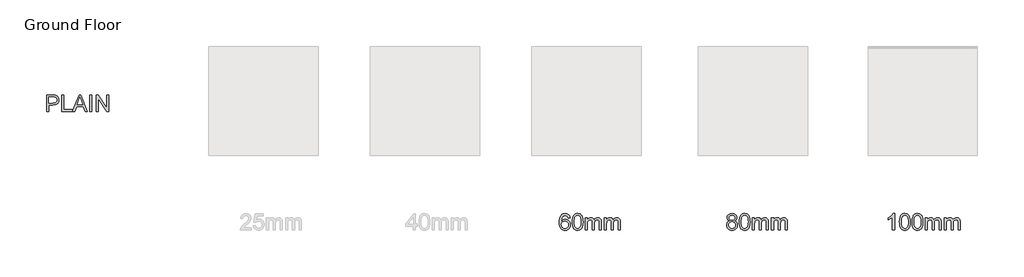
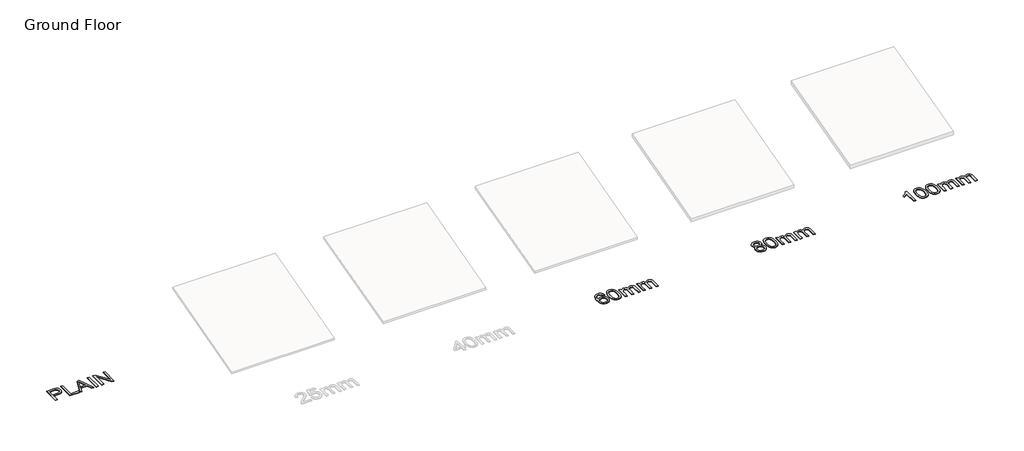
# One storey, part 2 of 2: 4 proxies.
"""IFC4 building model written with IfcOpenShell, lengths in millimetres."""

import ifcopenshell
import ifcopenshell.guid

model = None  # the IFC model being written
_history = None  # IfcOwnerHistory: only IFC2X3 demands one
_inside = {}  # id of a spatial element -> (the spatial element, [elements in it])
_under = {}  # id of a project, library or spatial element -> (it, [spatial elements below it])
_declared = {}  # id of a project -> (the project, [libraries it declares])
_typed = {}  # id of a type object -> (the type object, [elements of that type])
_made_of = {}  # id of a material, layer set ... -> (it, [elements and type objects made of it])


def new_model(schema):
    """Start an empty IFC model of exactly this schema.

    Asked for "IFC4X3", IfcOpenShell would pick the latest addendum, in which some entities
    have other attributes; the version numbers below select the first issue.
    IFC2X3 requires an IfcOwnerHistory on every rooted entity: one is made here for all.
    """
    global model, _history
    if schema == "IFC4X3":
        model = ifcopenshell.file(schema_version=(4, 3, 0, 0))
    else:
        model = ifcopenshell.file(schema=schema)
    _inside.clear()
    _under.clear()
    _declared.clear()
    _typed.clear()
    _made_of.clear()
    _history = None
    if model.schema == "IFC2X3":
        org = make("IfcOrganization", Name="unknown")
        user = make(
            "IfcPersonAndOrganization",
            ThePerson=make("IfcPerson", FamilyName="unknown"),
            TheOrganization=org,
        )
        app = make(
            "IfcApplication",
            ApplicationDeveloper=org,
            Version="unknown",
            ApplicationFullName="unknown",
            ApplicationIdentifier="unknown",
        )
        _history = make(
            "IfcOwnerHistory",
            OwningUser=user,
            OwningApplication=app,
            ChangeAction="ADDED",
            CreationDate=0,
        )
    return model


def make(cls, **values):
    """One entity of the class cls with the attributes given. An attribute that is None is left unset."""
    return model.create_entity(
        cls, **{name: value for name, value in values.items() if value is not None}
    )


def rooted(cls, **values):
    """An entity with a GlobalId (a new one), such as an element, a storey or a relation."""
    return make(cls, GlobalId=ifcopenshell.guid.new(), OwnerHistory=_history, **values)


def si_unit(unit_type, name, prefix=None):
    """IfcSIUnit, for example si_unit("LENGTHUNIT", "METRE", prefix="MILLI")."""
    return make("IfcSIUnit", UnitType=unit_type, Prefix=prefix, Name=name)


def assignment(units):
    """IfcUnitAssignment: the units of a project."""
    return None if units is None else make("IfcUnitAssignment", Units=units)


def point(xyz):
    """IfcCartesianPoint."""
    return None if xyz is None else make("IfcCartesianPoint", Coordinates=xyz)


def direction(xyz):
    """IfcDirection."""
    return None if xyz is None else make("IfcDirection", DirectionRatios=xyz)


def frame(location, z_axis=None, x_axis=None):
    """IfcAxis2Placement3D, a coordinate frame: its origin and axes. An axis left out is left unset."""
    return make(
        "IfcAxis2Placement3D",
        Location=point(location),
        Axis=direction(z_axis),
        RefDirection=direction(x_axis),
    )


def origin():
    """The frame at (0, 0, 0) with its axes left unset."""
    return frame((0.0, 0.0, 0.0))


def origin_with_axes():
    """The frame at (0, 0, 0) with the z axis (0, 0, 1) and the x axis (1, 0, 0) written out."""
    return frame((0.0, 0.0, 0.0), z_axis=(0.0, 0.0, 1.0), x_axis=(1.0, 0.0, 0.0))


def place(relative_to, where):
    """IfcLocalPlacement: puts the frame where relative to a parent placement (None: the world)."""
    return make(
        "IfcLocalPlacement", PlacementRelTo=relative_to, RelativePlacement=where
    )


def context(
    kind, dimensions, precision=None, world=None, true_north=None, identifier=None
):
    """IfcGeometricRepresentationContext, for example the 3D "Model" context."""
    return make(
        "IfcGeometricRepresentationContext",
        ContextIdentifier=identifier,
        ContextType=kind,
        CoordinateSpaceDimension=dimensions,
        Precision=precision,
        WorldCoordinateSystem=world,
        TrueNorth=true_north,
    )


def project(units=None, contexts=None):
    """IfcProject with its units and contexts."""
    return rooted(
        "IfcProject",
        Name="project",
        RepresentationContexts=contexts,
        UnitsInContext=assignment(units),
    )


def spatial(cls, under=None, at=None, **own):
    """A site, building, storey or space (cls), placed at a placement, below another one or the project."""
    s = rooted(cls, ObjectPlacement=at, **own)
    if under is not None:
        _under.setdefault(under.id(), (under, []))[1].append(s)
    return s


def polyline(points):
    """IfcPolyline through the points."""
    return make("IfcPolyline", Points=[point(p) for p in points])


def outline(outer, holes=None, kind="AREA"):
    """IfcArbitraryClosedProfileDef: a profile drawn as a closed curve; with holes, ...WithVoids."""
    if holes is None:
        return make("IfcArbitraryClosedProfileDef", ProfileType=kind, OuterCurve=outer)
    return make(
        "IfcArbitraryProfileDefWithVoids",
        ProfileType=kind,
        OuterCurve=outer,
        InnerCurves=holes,
    )


def extrude(swept, where, along, depth):
    """IfcExtrudedAreaSolid: the profile swept, set in the frame where, extruded along a direction by depth."""
    return make(
        "IfcExtrudedAreaSolid",
        SweptArea=swept,
        Position=where,
        ExtrudedDirection=direction(along),
        Depth=depth,
    )


def shape(context_of_items, identifier, shape_type, items):
    """IfcShapeRepresentation: the items that make up one representation, for example the "Body"."""
    return make(
        "IfcShapeRepresentation",
        ContextOfItems=context_of_items,
        RepresentationIdentifier=identifier,
        RepresentationType=shape_type,
        Items=items,
    )


def made_of(thing, what):
    """Note that an element or type object is made of a material, layer set ...; save() writes the relation."""
    if what is not None:
        _made_of.setdefault(what.id(), (what, []))[1].append(thing)
    return thing


def element(
    cls,
    number,
    at=None,
    inside=None,
    cuts=None,
    type_object=None,
    material=None,
    context=None,
    identifier="Body",
    shape_type=None,
    held_by="IfcProductDefinitionShape",
    body=None,
    shapes=None,
    **own,
):
    """One element of the class cls, such as IfcWall. Its Tag is "e" and its number.

    at: its placement. inside: the storey or other place that contains it. cuts: it is an
    opening in that element (IfcRelVoidsElement). A single representation is given by context,
    identifier, shape_type and body (its items); several are given by shapes. held_by: the class
    of the entity that holds the representations. save() writes the other relations.
    """
    e = rooted(cls, Tag="e%d" % number, ObjectPlacement=at, **own)
    if body is not None:
        shapes = [shape(context, identifier, shape_type, body)]
    if shapes is not None:
        e.Representation = make(held_by, Representations=shapes)
    if inside is not None:
        _inside.setdefault(inside.id(), (inside, []))[1].append(e)
    if cuts is not None:
        rooted(
            "IfcRelVoidsElement", RelatingBuildingElement=cuts, RelatedOpeningElement=e
        )
    if type_object is not None:
        _typed.setdefault(type_object.id(), (type_object, []))[1].append(e)
    return made_of(e, material)


def aggregate(whole, parts):
    """IfcRelAggregates: a whole, such as a stair, and the parts it consists of."""
    return rooted("IfcRelAggregates", RelatingObject=whole, RelatedObjects=parts)


def save(model, path):
    """Write the relations noted so far, then the file.

    IfcRelAggregates (storeys below a building ...), IfcRelContainedInSpatialStructure (elements
    in a storey), IfcRelDefinesByType, IfcRelAssociatesMaterial and IfcRelDeclares: one each for
    every whole, place, type object, material and project.
    """
    for whole, parts in _under.values():
        aggregate(whole, parts)
    for where, things in _inside.values():
        rooted(
            "IfcRelContainedInSpatialStructure",
            RelatedElements=things,
            RelatingStructure=where,
        )
    for kind, things in _typed.values():
        rooted("IfcRelDefinesByType", RelatedObjects=things, RelatingType=kind)
    for what, things in _made_of.values():
        rooted("IfcRelAssociatesMaterial", RelatedObjects=things, RelatingMaterial=what)
    for by, libraries in _declared.values():
        rooted("IfcRelDeclares", RelatingContext=by, RelatedDefinitions=libraries)
    model.write(path)


model = new_model("IFC4")

# Units and contexts
model_context = context("Model", 3, world=origin())
ifc_project = project(units=[si_unit("LENGTHUNIT", "METRE", prefix="MILLI")], contexts=[model_context])

# Site, building, storey
site = spatial("IfcSite", under=ifc_project)
building = spatial("IfcBuilding", under=site)
storey = spatial("IfcBuildingStorey", under=building, Name="Ground Floor", Elevation=0.0)

# Proxies
placement = place(None, origin())
element("IfcBuildingElementProxy", 1, Name="600mm Arial", ObjectType="600mm Arial", at=placement, inside=storey, context=model_context, shape_type="SweptSolid", body=[
    extrude(outline(polyline([(9572.4270523, -2153.6106576), (9532.0887915, -2133.7450298), (9516.4308141, -2121.1634656), (9503.780272, -2106.8160678), (9487.0600353, -2073.3755944), (9481.4866231, -2033.9754327), (9484.5216495, -2003.2480891), (9493.6267289, -1975.0775253), (9508.8018612, -1949.4637414), (9530.0470464, -1926.4067373), (9556.341412, -1907.35045), (9586.6640855, -1893.7388162), (9621.0150668, -1885.5718359), (9659.3943559, -1882.8495091), (9697.9575861, -1885.6362152), (9732.5660848, -1893.9963336), (9763.219852, -1907.9298641), (9789.9188878, -1927.4368069), (9811.5503491, -1950.9444664), (9827.0013929, -1976.8801471), (9836.2720192, -2005.2438489), (9839.362228, -2036.0355719), (9833.8623921, -2074.1665407), (9817.3628846, -2107.036797), (9804.9422688, -2121.2876258), (9789.6797645, -2133.8002121), (9750.6290907, -2153.6106576), (9775.3921475, -2164.1458782), (9797.0006162, -2177.5045931), (9815.4544968, -2193.6868024), (9830.7537893, -2212.692506), (9842.7605379, -2234.0986396), (9851.3367869, -2257.4821389), (9856.4825363, -2282.8430039), (9858.1977861, -2310.1812347), (9854.7948777, -2347.7603805), (9844.5861523, -2382.2125294), (9827.57161, -2413.5376813), (9803.7512508, -2441.7358362), (9774.3758735, -2465.0411606), (9740.6962769, -2481.6878209), (9702.7124609, -2491.675817), (9660.4244255, -2495.0051491), (9618.1363902, -2491.6620215), (9580.1525742, -2481.6326386), (9546.4729775, -2464.9170004), (9517.0976002, -2441.515107), (9493.277241, -2413.1192155), (9476.2626987, -2381.4215831), (9466.0539734, -2346.4222098), (9462.6510649, -2308.1210955), (9464.4352926, -2279.5366645), (9469.7879756, -2253.3802547), (9478.709114, -2229.651866), (9491.1987077, -2208.3514984), (9506.9808453, -2189.8654282), (9525.7796153, -2174.5799313), (9547.5950176, -2162.4950077), (9572.4270523, -2153.6106576)]), holes=[polyline([(9537.9932975, -2305.4723452), (9541.1386886, -2334.2958995), (9550.5748617, -2362.1997488), (9567.9940742, -2386.5351428), (9595.0885832, -2404.6533311), (9627.5357751, -2415.9105201), (9661.0130367, -2419.6629165), (9688.2546984, -2417.6901493), (9712.2957868, -2411.7718477), (9733.1363019, -2401.9080117), (9750.7762435, -2388.0986413), (9764.8109416, -2371.2450474), (9774.835726, -2352.2485409), (9780.8505966, -2331.1091217), (9782.8555535, -2307.8267899), (9780.7862173, -2284.1719777), (9774.5782086, -2262.6508809), (9764.2315275, -2243.2634998), (9749.7461739, -2226.0098342), (9731.6279857, -2211.8463774), (9710.3828005, -2201.7296225), (9686.0106183, -2195.6595696), (9658.5114391, -2193.6362186), (9631.6698491, -2195.6319785), (9607.9460589, -2201.6192579), (9587.3400686, -2211.5980571), (9569.8518783, -2225.5683758), (9555.9137492, -2242.5369328), (9545.9579427, -2261.5104467), (9539.9844588, -2282.4889175), (9537.9932975, -2305.4723452)]), polyline([(9556.8288557, -2036.1827247), (9558.4981202, -2053.4547844), (9563.5059139, -2069.0713751), (9571.8522366, -2083.0324968), (9583.5370885, -2095.3381495), (9598.4133167, -2105.381328), (9616.3337684, -2112.5550269), (9637.2984436, -2116.8592462), (9661.3073423, -2118.293986), (9684.7230313, -2116.8684433), (9705.2324525, -2112.5918151), (9722.835606, -2105.4641014), (9737.5324917, -2095.4853023), (9749.1207745, -2083.437167), (9757.3981194, -2070.1014447), (9762.3645264, -2055.4781353), (9764.0199953, -2039.5672391), (9762.3093441, -2023.0355419), (9757.1773902, -2007.8742052), (9748.6241339, -1994.0832289), (9736.6495749, -1981.662613), (9721.6215954, -1971.3941068), (9703.9080773, -1964.0594595), (9683.5090207, -1959.6586712), (9660.4244255, -1958.1917417), (9637.1604878, -1959.6264815), (9616.6648622, -1963.9307008), (9598.9375485, -1971.1043998), (9583.9785469, -1981.1475782), (9572.100557, -1993.1957136), (9563.6162785, -2006.3842831), (9558.5257114, -2020.7132868), (9556.8288557, -2036.1827247)])]), origin_with_axes(), (0.0, 0.0, 1.0), 20.0),
    extrude(outline(polyline([(9924.1222397, -2189.0744819), (9929.6588637, -2092.5974287), (9936.5796437, -2051.6843523), (9946.2687358, -2015.6549094), (9958.6847531, -1984.2147944), (9973.786309, -1957.0697016), (9991.5734035, -1934.2196312), (10012.0460365, -1915.6645831), (10035.273186, -1901.3079882), (10061.3238298, -1891.0532776), (10090.1979678, -1884.9004512), (10121.8956003, -1882.8495091), (10168.322308, -1887.7055514), (10209.8929735, -1902.2736785), (10244.657822, -1925.983673), (10270.6670791, -1958.2653181), (10290.3119776, -1998.8427022), (10305.9837506, -2047.4399138), (10316.2476583, -2109.1521184), (10319.6689609, -2189.0744819), (10314.1875191, -2284.9997121), (10307.335717, -2325.7748328), (10297.743194, -2361.7582904), (10285.4237456, -2393.212201), (10270.3911676, -2420.3986805), (10252.6454599, -2443.3177288), (10232.1866224, -2461.9693459), (10208.9318818, -2476.4225098), (10182.7984646, -2486.7461983), (10153.7863707, -2492.9404114), (10121.8956003, -2495.0051491), (10080.3985112, -2491.4182996), (10043.6103117, -2480.6577513), (10011.5310017, -2462.723504), (9984.1605813, -2437.6155578), (9957.8938068, -2392.2281167), (9939.1318251, -2335.675457), (9927.874636, -2267.9575787), (9924.1222397, -2189.0744819)]), holes=[polyline([(9999.4644723, -2188.9273291), (10001.6717642, -2254.4241198), (10008.2936401, -2307.4405138), (10019.3301, -2347.9765112), (10034.7811438, -2376.0321118), (10053.4695492, -2395.1205889), (10074.2180937, -2408.7552153), (10097.0267774, -2416.9359912), (10121.8956003, -2419.6629165), (10146.7644231, -2416.9267941), (10169.5731068, -2408.7184271), (10190.3216514, -2395.0378154), (10209.0100567, -2375.884959), (10224.4611005, -2347.7833731), (10235.4975604, -2307.2565728), (10242.1194363, -2254.3045582), (10244.3267283, -2188.9273291), (10242.1930127, -2125.1641823), (10235.791866, -2073.0812888), (10225.1232881, -2032.6786487), (10210.1872791, -2003.9562619), (10191.8115734, -1983.9342843), (10170.8239056, -1969.6328718), (10147.2242756, -1961.0520242), (10121.0126835, -1958.1917417), (10096.2726193, -1960.7117334), (10073.8502117, -1968.2717084), (10053.7454607, -1980.8716667), (10035.9583662, -1998.5116084), (10019.9922876, -2029.781578), (10008.5879457, -2071.9408546), (10001.7453406, -2124.9894383), (9999.4644723, -2188.9273291)])]), origin_with_axes(), (0.0, 0.0, 1.0), 20.0),
    extrude(outline(polyline([(10404.4289726, -2485.58737), (10404.4289726, -2042.9517534), (10479.7712052, -2042.9517534), (10479.7712052, -2115.7923885), (10502.4327361, -2082.333521), (10531.5689901, -2056.1219288), (10566.1866858, -2039.180963), (10605.2925419, -2033.5339743), (10647.1943012, -2039.2913276), (10665.0273809, -2046.4880191), (10680.7819273, -2056.5633872), (10705.8714794, -2084.2097192), (10722.2790164, -2121.0898892), (10749.7414073, -2082.7841764), (10781.0665592, -2055.422953), (10816.2544721, -2039.006219), (10855.3051458, -2033.5339743), (10885.4668709, -2035.8102442), (10911.940579, -2042.6390537), (10934.7262701, -2054.0204029), (10953.8239442, -2069.9542919), (10968.9209015, -2090.6246615), (10979.7044425, -2116.2154528), (10986.1745671, -2146.7266657), (10988.3312753, -2182.1583004), (10988.3312753, -2485.58737), (10912.9890427, -2485.58737), (10912.9890427, -2214.531916), (10911.2416032, -2176.9527702), (10905.9992848, -2151.6240948), (10896.1768355, -2134.2784587), (10880.6890035, -2120.6484308), (10860.7681935, -2111.8192629), (10837.6468101, -2108.8762069), (10816.2958588, -2110.7616022), (10796.8303027, -2116.4177879), (10779.2501419, -2125.844764), (10763.5553762, -2139.0425306), (10750.6473167, -2156.3973637), (10741.4272742, -2178.2955394), (10735.8952487, -2204.7370578), (10734.0512402, -2235.7219189), (10734.0512402, -2485.58737), (10658.7090076, -2485.58737), (10658.7090076, -2206.1442065), (10654.349606, -2163.5434714), (10648.9003539, -2146.8232348), (10641.271401, -2133.1564186), (10631.1592447, -2122.533826), (10618.2603822, -2114.9462599), (10602.5748137, -2110.3937202), (10584.102539, -2108.8762069), (10555.0766496, -2112.9229089), (10528.3316285, -2125.0630147), (10506.2587088, -2145.0022189), (10491.2491234, -2172.4462157), (10482.6406847, -2210.5220022), (10479.7712052, -2262.3565753), (10479.7712052, -2485.58737), (10404.4289726, -2485.58737)])), origin_with_axes(), (0.0, 0.0, 1.0), 20.0),
    extrude(outline(polyline([(11101.3446242, -2485.58737), (11101.3446242, -2042.9517534), (11176.6868568, -2042.9517534), (11176.6868568, -2115.7923885), (11199.3483877, -2082.333521), (11228.4846417, -2056.1219288), (11263.1023375, -2039.180963), (11302.2081936, -2033.5339743), (11344.1099528, -2039.2913276), (11361.9430325, -2046.4880191), (11377.697579, -2056.5633872), (11402.7871311, -2084.2097192), (11419.194668, -2121.0898892), (11446.657059, -2082.7841764), (11477.9822109, -2055.422953), (11513.1701237, -2039.006219), (11552.2207975, -2033.5339743), (11582.3825226, -2035.8102442), (11608.8562307, -2042.6390537), (11631.6419217, -2054.0204029), (11650.7395958, -2069.9542919), (11665.8365532, -2090.6246615), (11676.6200942, -2116.2154528), (11683.0902188, -2146.7266657), (11685.246927, -2182.1583004), (11685.246927, -2485.58737), (11609.9046943, -2485.58737), (11609.9046943, -2214.531916), (11608.1572549, -2176.9527702), (11602.9149364, -2151.6240948), (11593.0924872, -2134.2784587), (11577.6046552, -2120.6484308), (11557.6838451, -2111.8192629), (11534.5624617, -2108.8762069), (11513.2115104, -2110.7616022), (11493.7459544, -2116.4177879), (11476.1657935, -2125.844764), (11460.4710279, -2139.0425306), (11447.5629684, -2156.3973637), (11438.3429259, -2178.2955394), (11432.8109004, -2204.7370578), (11430.9668919, -2235.7219189), (11430.9668919, -2485.58737), (11355.6246593, -2485.58737), (11355.6246593, -2206.1442065), (11351.2652576, -2163.5434714), (11345.8160056, -2146.8232348), (11338.1870527, -2133.1564186), (11328.0748964, -2122.533826), (11315.1760339, -2114.9462599), (11299.4904653, -2110.3937202), (11281.0181907, -2108.8762069), (11251.9923012, -2112.9229089), (11225.2472802, -2125.0630147), (11203.1743605, -2145.0022189), (11188.1647751, -2172.4462157), (11179.5563364, -2210.5220022), (11176.6868568, -2262.3565753), (11176.6868568, -2485.58737), (11101.3446242, -2485.58737)])), origin_with_axes(), (0.0, 0.0, 1.0), 20.0),
])
element("IfcBuildingElementProxy", 2, Name="600mm Arial", ObjectType="600mm Arial", at=placement, inside=storey, context=model_context, shape_type="SweptSolid", body=[
    extrude(outline(polyline([(15601.7887855, -2485.58737), (15526.4465529, -2485.58737), (15526.4465529, -2015.8756386), (15494.9926423, -2041.3146785), (15455.0774458, -2066.7169303), (15413.1756866, -2088.9186087), (15375.7620877, -2104.7559286), (15375.7620877, -2033.5339743), (15434.9359066, -2001.3442998), (15486.2002626, -1963.0477841), (15526.6120998, -1922.3232472), (15553.2283621, -1882.8495091), (15601.7887855, -1882.8495091), (15601.7887855, -2485.58737)])), origin_with_axes(), (0.0, 0.0, 1.0), 20.0),
    extrude(outline(polyline([(15780.726588, -2189.0744819), (15786.263212, -2092.5974287), (15793.183992, -2051.6843523), (15802.8730841, -2015.6549094), (15815.2891014, -1984.2147944), (15830.3906573, -1957.0697016), (15848.1777518, -1934.2196312), (15868.6503848, -1915.6645831), (15891.8775343, -1901.3079882), (15917.9281781, -1891.0532776), (15946.8023162, -1884.9004512), (15978.4999486, -1882.8495091), (16024.9266564, -1887.7055514), (16066.4973218, -1902.2736785), (16101.2621704, -1925.983673), (16127.2714274, -1958.2653181), (16146.916326, -1998.8427022), (16162.588099, -2047.4399138), (16172.8520066, -2109.1521184), (16176.2733092, -2189.0744819), (16170.7918674, -2284.9997121), (16163.9400653, -2325.7748328), (16154.3475423, -2361.7582904), (16142.0280939, -2393.212201), (16126.9955159, -2420.3986805), (16109.2498082, -2443.3177288), (16088.7909707, -2461.9693459), (16065.5362301, -2476.4225098), (16039.4028129, -2486.7461983), (16010.390719, -2492.9404114), (15978.4999486, -2495.0051491), (15937.0028595, -2491.4182996), (15900.21466, -2480.6577513), (15868.13535, -2462.723504), (15840.7649296, -2437.6155578), (15814.4981551, -2392.2281167), (15795.7361734, -2335.675457), (15784.4789843, -2267.9575787), (15780.726588, -2189.0744819)]), holes=[polyline([(15856.0688206, -2188.9273291), (15858.2761125, -2254.4241198), (15864.8979885, -2307.4405138), (15875.9344483, -2347.9765112), (15891.3854921, -2376.0321118), (15910.0738975, -2395.1205889), (15930.822442, -2408.7552153), (15953.6311257, -2416.9359912), (15978.4999486, -2419.6629165), (16003.3687714, -2416.9267941), (16026.1774551, -2408.7184271), (16046.9259997, -2395.0378154), (16065.614405, -2375.884959), (16081.0654488, -2347.7833731), (16092.1019087, -2307.2565728), (16098.7237846, -2254.3045582), (16100.9310766, -2188.9273291), (16098.797361, -2125.1641823), (16092.3962143, -2073.0812888), (16081.7276364, -2032.6786487), (16066.7916274, -2003.9562619), (16048.4159217, -1983.9342843), (16027.4282539, -1969.6328718), (16003.8286239, -1961.0520242), (15977.6170318, -1958.1917417), (15952.8769676, -1960.7117334), (15930.45456, -1968.2717084), (15910.349809, -1980.8716667), (15892.5627145, -1998.5116084), (15876.5966359, -2029.781578), (15865.1922941, -2071.9408546), (15858.3496889, -2124.9894383), (15856.0688206, -2188.9273291)])]), origin_with_axes(), (0.0, 0.0, 1.0), 20.0),
    extrude(outline(polyline([(16242.1977627, -2189.0744819), (16247.7343867, -2092.5974287), (16254.6551668, -2051.6843523), (16264.3442588, -2015.6549094), (16276.7602762, -1984.2147944), (16291.8618321, -1957.0697016), (16309.6489265, -1934.2196312), (16330.1215596, -1915.6645831), (16353.348709, -1901.3079882), (16379.3993528, -1891.0532776), (16408.2734909, -1884.9004512), (16439.9711233, -1882.8495091), (16486.3978311, -1887.7055514), (16527.9684966, -1902.2736785), (16562.7333451, -1925.983673), (16588.7426022, -1958.2653181), (16608.3875007, -1998.8427022), (16624.0592737, -2047.4399138), (16634.3231814, -2109.1521184), (16637.7444839, -2189.0744819), (16632.2630422, -2284.9997121), (16625.41124, -2325.7748328), (16615.818717, -2361.7582904), (16603.4992687, -2393.212201), (16588.4666907, -2420.3986805), (16570.7209829, -2443.3177288), (16550.2621455, -2461.9693459), (16527.0074049, -2476.4225098), (16500.8739876, -2486.7461983), (16471.8618938, -2492.9404114), (16439.9711233, -2495.0051491), (16398.4740343, -2491.4182996), (16361.6858347, -2480.6577513), (16329.6065248, -2462.723504), (16302.2361043, -2437.6155578), (16275.9693299, -2392.2281167), (16257.2073481, -2335.675457), (16245.9501591, -2267.9575787), (16242.1977627, -2189.0744819)]), holes=[polyline([(16317.5399953, -2188.9273291), (16319.7472873, -2254.4241198), (16326.3691632, -2307.4405138), (16337.4056231, -2347.9765112), (16352.8566669, -2376.0321118), (16371.5450722, -2395.1205889), (16392.2936167, -2408.7552153), (16415.1023004, -2416.9359912), (16439.9711233, -2419.6629165), (16464.8399462, -2416.9267941), (16487.6486299, -2408.7184271), (16508.3971744, -2395.0378154), (16527.0855798, -2375.884959), (16542.5366236, -2347.7833731), (16553.5730834, -2307.2565728), (16560.1949593, -2254.3045582), (16562.4022513, -2188.9273291), (16560.2685357, -2125.1641823), (16553.867389, -2073.0812888), (16543.1988112, -2032.6786487), (16528.2628022, -2003.9562619), (16509.8870965, -1983.9342843), (16488.8994287, -1969.6328718), (16465.2997987, -1961.0520242), (16439.0882065, -1958.1917417), (16414.3481424, -1960.7117334), (16391.9257347, -1968.2717084), (16371.8209837, -1980.8716667), (16354.0338892, -1998.5116084), (16338.0678107, -2029.781578), (16326.6634688, -2071.9408546), (16319.8208637, -2124.9894383), (16317.5399953, -2188.9273291)])]), origin_with_axes(), (0.0, 0.0, 1.0), 20.0),
    extrude(outline(polyline([(16722.5044956, -2485.58737), (16722.5044956, -2042.9517534), (16797.8467282, -2042.9517534), (16797.8467282, -2115.7923885), (16820.5082591, -2082.333521), (16849.6445131, -2056.1219288), (16884.2622089, -2039.180963), (16923.368065, -2033.5339743), (16965.2698242, -2039.2913276), (16983.1029039, -2046.4880191), (16998.8574504, -2056.5633872), (17023.9470025, -2084.2097192), (17040.3545394, -2121.0898892), (17067.8169304, -2082.7841764), (17099.1420823, -2055.422953), (17134.3299951, -2039.006219), (17173.3806689, -2033.5339743), (17203.542394, -2035.8102442), (17230.0161021, -2042.6390537), (17252.8017931, -2054.0204029), (17271.8994672, -2069.9542919), (17286.9964246, -2090.6246615), (17297.7799656, -2116.2154528), (17304.2500902, -2146.7266657), (17306.4067984, -2182.1583004), (17306.4067984, -2485.58737), (17231.0645657, -2485.58737), (17231.0645657, -2214.531916), (17229.3171263, -2176.9527702), (17224.0748078, -2151.6240948), (17214.2523586, -2134.2784587), (17198.7645266, -2120.6484308), (17178.8437165, -2111.8192629), (17155.7223331, -2108.8762069), (17134.3713818, -2110.7616022), (17114.9058258, -2116.4177879), (17097.3256649, -2125.844764), (17081.6308993, -2139.0425306), (17068.7228398, -2156.3973637), (17059.5027973, -2178.2955394), (17053.9707718, -2204.7370578), (17052.1267633, -2235.7219189), (17052.1267633, -2485.58737), (16976.7845307, -2485.58737), (16976.7845307, -2206.1442065), (16972.425129, -2163.5434714), (16966.975877, -2146.8232348), (16959.3469241, -2133.1564186), (16949.2347678, -2122.533826), (16936.3359053, -2114.9462599), (16920.6503367, -2110.3937202), (16902.1780621, -2108.8762069), (16873.1521726, -2112.9229089), (16846.4071516, -2125.0630147), (16824.3342319, -2145.0022189), (16809.3246465, -2172.4462157), (16800.7162078, -2210.5220022), (16797.8467282, -2262.3565753), (16797.8467282, -2485.58737), (16722.5044956, -2485.58737)])), origin_with_axes(), (0.0, 0.0, 1.0), 20.0),
    extrude(outline(polyline([(17419.4201473, -2485.58737), (17419.4201473, -2042.9517534), (17494.7623799, -2042.9517534), (17494.7623799, -2115.7923885), (17517.4239108, -2082.333521), (17546.5601648, -2056.1219288), (17581.1778606, -2039.180963), (17620.2837166, -2033.5339743), (17662.1854759, -2039.2913276), (17680.0185556, -2046.4880191), (17695.7731021, -2056.5633872), (17720.8626541, -2084.2097192), (17737.2701911, -2121.0898892), (17764.732582, -2082.7841764), (17796.0577339, -2055.422953), (17831.2456468, -2039.006219), (17870.2963206, -2033.5339743), (17900.4580456, -2035.8102442), (17926.9317537, -2042.6390537), (17949.7174448, -2054.0204029), (17968.8151189, -2069.9542919), (17983.9120762, -2090.6246615), (17994.6956172, -2116.2154528), (18001.1657418, -2146.7266657), (18003.32245, -2182.1583004), (18003.32245, -2485.58737), (17927.9802174, -2485.58737), (17927.9802174, -2214.531916), (17926.2327779, -2176.9527702), (17920.9904595, -2151.6240948), (17911.1680102, -2134.2784587), (17895.6801782, -2120.6484308), (17875.7593682, -2111.8192629), (17852.6379848, -2108.8762069), (17831.2870335, -2110.7616022), (17811.8214774, -2116.4177879), (17794.2413166, -2125.844764), (17778.546551, -2139.0425306), (17765.6384915, -2156.3973637), (17756.418449, -2178.2955394), (17750.8864235, -2204.7370578), (17749.042415, -2235.7219189), (17749.042415, -2485.58737), (17673.7001823, -2485.58737), (17673.7001823, -2206.1442065), (17669.3407807, -2163.5434714), (17663.8915286, -2146.8232348), (17656.2625758, -2133.1564186), (17646.1504194, -2122.533826), (17633.251557, -2114.9462599), (17617.5659884, -2110.3937202), (17599.0937137, -2108.8762069), (17570.0678243, -2112.9229089), (17543.3228033, -2125.0630147), (17521.2498835, -2145.0022189), (17506.2402981, -2172.4462157), (17497.6318594, -2210.5220022), (17494.7623799, -2262.3565753), (17494.7623799, -2485.58737), (17419.4201473, -2485.58737)])), origin_with_axes(), (0.0, 0.0, 1.0), 20.0),
])
element("IfcBuildingElementProxy", 3, Name="600mm Arial", ObjectType="600mm Arial", at=placement, inside=storey, context=model_context, shape_type="SweptSolid", body=[
    extrude(outline(polyline([(-15403.839663, 1851.9959966), (-15403.839663, 2454.7338575), (-15180.4617155, 2454.7338575), (-15128.4432014, 2453.2991177), (-15090.4042031, 2448.9948984), (-15050.2498833, 2438.2711382), (-15017.1956861, 2420.8151376), (-14990.5794237, 2395.8359501), (-14969.7389087, 2362.5426295), (-14956.2744277, 2323.2712265), (-14951.7862673, 2280.3577918), (-14954.8166953, 2243.3580601), (-14963.9079791, 2209.3197785), (-14979.0601187, 2178.242947), (-15000.2731143, 2150.1275655), (-15029.3955727, 2126.8222411), (-15068.2761011, 2110.1755808), (-15116.9146994, 2100.1875847), (-15175.3113676, 2096.8582526), (-15328.4974304, 2096.8582526), (-15328.4974304, 1851.9959966), (-15403.839663, 1851.9959966)]), holes=[polyline([(-15328.4974304, 2172.2004852), (-15170.8967836, 2172.2004852), (-15134.6604071, 2173.9295306), (-15104.0894133, 2179.1166667), (-15079.1838023, 2187.7618936), (-15059.9435739, 2199.8652113), (-15045.586979, 2215.1047229), (-15035.3322684, 2233.1585318), (-15029.1794421, 2254.026638), (-15027.1284999, 2277.7090414), (-15031.9661482, 2311.554185), (-15046.4790929, 2340.1018278), (-15068.8647123, 2361.5861363), (-15097.3203846, 2374.241277), (-15126.3830622, 2378.1040379), (-15172.6626172, 2379.3916249), (-15328.4974304, 2379.3916249), (-15328.4974304, 2172.2004852)])]), origin_with_axes(), (0.0, 0.0, 1.0), 20.0),
    extrude(outline(polyline([(-14848.1906975, 1851.9959966), (-14848.1906975, 2454.7338575), (-14772.8484649, 2454.7338575), (-14772.8484649, 1927.3382292), (-14471.4795344, 1927.3382292), (-14471.4795344, 1851.9959966), (-14848.1906975, 1851.9959966)])), origin_with_axes(), (0.0, 0.0, 1.0), 20.0),
    extrude(outline(polyline([(-14456.9114074, 1851.9959966), (-14216.3165826, 2454.7338575), (-14152.1579626, 2454.7338575), (-13911.5631378, 1851.9959966), (-13991.1728015, 1851.9959966), (-14060.1874638, 2040.3515782), (-14308.4342342, 2040.3515782), (-14377.3017437, 1851.9959966), (-14456.9114074, 1851.9959966)]), holes=[polyline([(-14280.7695081, 2115.6938108), (-14087.705037, 2115.6938108), (-14142.0044195, 2263.8766784), (-14184.2372726, 2379.3916249), (-14221.7612361, 2276.8261247), (-14280.7695081, 2115.6938108)])]), origin_with_axes(), (0.0, 0.0, 1.0), 20.0),
    extrude(outline(polyline([(-13821.6527781, 1851.9959966), (-13821.6527781, 2454.7338575), (-13746.3105455, 2454.7338575), (-13746.3105455, 1851.9959966), (-13821.6527781, 1851.9959966)])), origin_with_axes(), (0.0, 0.0, 1.0), 20.0),
    extrude(outline(polyline([(-13595.6260803, 1851.9959966), (-13595.6260803, 2454.7338575), (-13514.986347, 2454.7338575), (-13200.0793591, 1977.2230278), (-13200.0793591, 2454.7338575), (-13124.7371265, 2454.7338575), (-13124.7371265, 1851.9959966), (-13205.3768598, 1851.9959966), (-13520.2838477, 2329.6539792), (-13520.2838477, 1851.9959966), (-13595.6260803, 1851.9959966)])), origin_with_axes(), (0.0, 0.0, 1.0), 20.0),
])
element("IfcBuildingElementProxy", 4, Name="600mm Arial", ObjectType="600mm Arial", at=placement, inside=storey, context=model_context, shape_type="SweptSolid", body=[
    extrude(outline(polyline([(3740.452797, -2042.9517534), (3665.1105644, -2052.3695325), (3652.9704585, -2015.02951), (3636.5629215, -1989.5352877), (3620.3669167, -1975.8224863), (3602.3866842, -1966.0276282), (3582.622224, -1960.1507133), (3561.0735361, -1958.1917417), (3526.0511702, -1962.7534785), (3493.0889434, -1976.4386887), (3464.7804239, -2005.262243), (3441.6590405, -2044.9383162), (3432.622939, -2070.2439989), (3426.0424498, -2101.0587146), (3420.2483084, -2179.2152444), (3450.4698143, -2143.9537552), (3486.6877967, -2119.1033264), (3526.8789047, -2104.3696525), (3569.0197872, -2099.4584279), (3605.2193755, -2102.8153511), (3638.6230607, -2112.8861207), (3669.2308427, -2129.6707367), (3697.0427215, -2153.1691992), (3720.1549079, -2181.9835564), (3736.6636124, -2214.715857), (3746.5688351, -2251.3661007), (3749.870576, -2291.9342877), (3748.3162746, -2319.4012772), (3743.6533703, -2345.8841823), (3735.8818632, -2371.3830031), (3725.0017532, -2395.8977396), (3711.3993164, -2418.5132852), (3695.460829, -2438.3145336), (3677.1862908, -2455.3014848), (3656.5757021, -2469.4741386), (3634.070521, -2480.6439557), (3610.1122061, -2488.6223965), (3584.7007573, -2493.4094609), (3557.8361746, -2495.0051491), (3512.9223815, -2490.7745061), (3472.358793, -2478.0825773), (3436.1454091, -2456.9293626), (3404.2822298, -2427.314862), (3378.3051624, -2387.9882767), (3359.7501143, -2337.6988079), (3348.6170854, -2276.4464558), (3344.9060758, -2204.2312201), (3349.0263541, -2123.26959), (3361.3871891, -2054.1721543), (3381.9885809, -1996.9389129), (3395.3794855, -1972.771365), (3410.8305293, -1951.5698658), (3442.0913018, -1921.5047098), (3478.3368754, -1900.0295983), (3519.56725, -1887.1445314), (3565.7824257, -1882.8495091), (3600.4828949, -1885.5074565), (3631.8908202, -1893.4812988), (3660.0062017, -1906.7710358), (3684.8290393, -1925.3766678), (3705.6879484, -1948.6727951), (3721.9115444, -1976.0340185), (3733.4998273, -2007.4603379), (3740.452797, -2042.9517534)]), holes=[polyline([(3420.2483084, -2290.7570654), (3424.60771, -2324.1423564), (3437.6859149, -2356.0193313), (3457.9930011, -2383.4265399), (3484.0390463, -2403.4025323), (3515.4745628, -2415.5978204), (3551.9500626, -2419.6629165), (3578.1386622, -2417.5567921), (3601.6693143, -2411.2384188), (3622.542019, -2400.7077967), (3640.7567763, -2385.9649257), (3655.5318369, -2367.6076142), (3666.0854516, -2346.2336702), (3672.4176205, -2321.843094), (3674.5283434, -2294.4358853), (3672.4452116, -2268.100133), (3666.1958162, -2244.7166337), (3655.7801573, -2224.2853874), (3641.1982347, -2206.8063941), (3622.9282951, -2192.8038856), (3601.4485851, -2182.8020939), (3576.7591047, -2176.8010188), (3548.8598539, -2174.8006605), (3523.0207422, -2176.8010188), (3499.2141786, -2182.8020939), (3477.440163, -2192.8038856), (3457.6986955, -2206.8063941), (3441.3141511, -2224.0554611), (3429.6109051, -2243.7969287), (3422.5889576, -2266.0307968), (3420.2483084, -2290.7570654)])]), origin_with_axes(), (0.0, 0.0, 1.0), 20.0),
    extrude(outline(polyline([(3815.7950296, -2189.0744819), (3821.3316536, -2092.5974287), (3828.2524336, -2051.6843523), (3837.9415257, -2015.6549094), (3850.357543, -1984.2147944), (3865.4590989, -1957.0697016), (3883.2461934, -1934.2196312), (3903.7188264, -1915.6645831), (3926.9459759, -1901.3079882), (3952.9966197, -1891.0532776), (3981.8707578, -1884.9004512), (4013.5683902, -1882.8495091), (4059.995098, -1887.7055514), (4101.5657634, -1902.2736785), (4136.330612, -1925.983673), (4162.339869, -1958.2653181), (4181.9847676, -1998.8427022), (4197.6565406, -2047.4399138), (4207.9204482, -2109.1521184), (4211.3417508, -2189.0744819), (4205.8603091, -2284.9997121), (4199.0085069, -2325.7748328), (4189.4159839, -2361.7582904), (4177.0965356, -2393.212201), (4162.0639575, -2420.3986805), (4144.3182498, -2443.3177288), (4123.8594123, -2461.9693459), (4100.6046717, -2476.4225098), (4074.4712545, -2486.7461983), (4045.4591606, -2492.9404114), (4013.5683902, -2495.0051491), (3972.0713011, -2491.4182996), (3935.2831016, -2480.6577513), (3903.2037916, -2462.723504), (3875.8333712, -2437.6155578), (3849.5665967, -2392.2281167), (3830.804615, -2335.675457), (3819.5474259, -2267.9575787), (3815.7950296, -2189.0744819)]), holes=[polyline([(3891.1372622, -2188.9273291), (3893.3445542, -2254.4241198), (3899.9664301, -2307.4405138), (3911.0028899, -2347.9765112), (3926.4539337, -2376.0321118), (3945.1423391, -2395.1205889), (3965.8908836, -2408.7552153), (3988.6995673, -2416.9359912), (4013.5683902, -2419.6629165), (4038.4372131, -2416.9267941), (4061.2458968, -2408.7184271), (4081.9944413, -2395.0378154), (4100.6828466, -2375.884959), (4116.1338904, -2347.7833731), (4127.1703503, -2307.2565728), (4133.7922262, -2254.3045582), (4135.9995182, -2188.9273291), (4133.8658026, -2125.1641823), (4127.4646559, -2073.0812888), (4116.796078, -2032.6786487), (4101.860069, -2003.9562619), (4083.4843634, -1983.9342843), (4062.4966955, -1969.6328718), (4038.8970656, -1961.0520242), (4012.6854734, -1958.1917417), (3987.9454092, -1960.7117334), (3965.5230016, -1968.2717084), (3945.4182506, -1980.8716667), (3927.6311561, -1998.5116084), (3911.6650775, -2029.781578), (3900.2607357, -2071.9408546), (3893.4181306, -2124.9894383), (3891.1372622, -2188.9273291)])]), origin_with_axes(), (0.0, 0.0, 1.0), 20.0),
    extrude(outline(polyline([(4296.1017625, -2485.58737), (4296.1017625, -2042.9517534), (4371.4439951, -2042.9517534), (4371.4439951, -2115.7923885), (4394.105526, -2082.333521), (4423.24178, -2056.1219288), (4457.8594758, -2039.180963), (4496.9653319, -2033.5339743), (4538.8670911, -2039.2913276), (4556.7001708, -2046.4880191), (4572.4547173, -2056.5633872), (4597.5442693, -2084.2097192), (4613.9518063, -2121.0898892), (4641.4141973, -2082.7841764), (4672.7393491, -2055.422953), (4707.927262, -2039.006219), (4746.9779358, -2033.5339743), (4777.1396609, -2035.8102442), (4803.6133689, -2042.6390537), (4826.39906, -2054.0204029), (4845.4967341, -2069.9542919), (4860.5936915, -2090.6246615), (4871.3772324, -2116.2154528), (4877.847357, -2146.7266657), (4880.0040652, -2182.1583004), (4880.0040652, -2485.58737), (4804.6618326, -2485.58737), (4804.6618326, -2214.531916), (4802.9143931, -2176.9527702), (4797.6720747, -2151.6240948), (4787.8496254, -2134.2784587), (4772.3617934, -2120.6484308), (4752.4409834, -2111.8192629), (4729.3196, -2108.8762069), (4707.9686487, -2110.7616022), (4688.5030926, -2116.4177879), (4670.9229318, -2125.844764), (4655.2281662, -2139.0425306), (4642.3201067, -2156.3973637), (4633.1000642, -2178.2955394), (4627.5680387, -2204.7370578), (4625.7240302, -2235.7219189), (4625.7240302, -2485.58737), (4550.3817976, -2485.58737), (4550.3817976, -2206.1442065), (4546.0223959, -2163.5434714), (4540.5731439, -2146.8232348), (4532.944191, -2133.1564186), (4522.8320346, -2122.533826), (4509.9331722, -2114.9462599), (4494.2476036, -2110.3937202), (4475.7753289, -2108.8762069), (4446.7494395, -2112.9229089), (4420.0044185, -2125.0630147), (4397.9314987, -2145.0022189), (4382.9219133, -2172.4462157), (4374.3134747, -2210.5220022), (4371.4439951, -2262.3565753), (4371.4439951, -2485.58737), (4296.1017625, -2485.58737)])), origin_with_axes(), (0.0, 0.0, 1.0), 20.0),
    extrude(outline(polyline([(4993.0174141, -2485.58737), (4993.0174141, -2042.9517534), (5068.3596468, -2042.9517534), (5068.3596468, -2115.7923885), (5091.0211777, -2082.333521), (5120.1574317, -2056.1219288), (5154.7751274, -2039.180963), (5193.8809835, -2033.5339743), (5235.7827428, -2039.2913276), (5253.6158225, -2046.4880191), (5269.3703689, -2056.5633872), (5294.459921, -2084.2097192), (5310.867458, -2121.0898892), (5338.3298489, -2082.7841764), (5369.6550008, -2055.422953), (5404.8429136, -2039.006219), (5443.8935874, -2033.5339743), (5474.0553125, -2035.8102442), (5500.5290206, -2042.6390537), (5523.3147117, -2054.0204029), (5542.4123857, -2069.9542919), (5557.5093431, -2090.6246615), (5568.2928841, -2116.2154528), (5574.7630087, -2146.7266657), (5576.9197169, -2182.1583004), (5576.9197169, -2485.58737), (5501.5774843, -2485.58737), (5501.5774843, -2214.531916), (5499.8300448, -2176.9527702), (5494.5877264, -2151.6240948), (5484.7652771, -2134.2784587), (5469.2774451, -2120.6484308), (5449.3566351, -2111.8192629), (5426.2352517, -2108.8762069), (5404.8843004, -2110.7616022), (5385.4187443, -2116.4177879), (5367.8385835, -2125.844764), (5352.1438178, -2139.0425306), (5339.2357583, -2156.3973637), (5330.0157158, -2178.2955394), (5324.4836903, -2204.7370578), (5322.6396818, -2235.7219189), (5322.6396818, -2485.58737), (5247.2974492, -2485.58737), (5247.2974492, -2206.1442065), (5242.9380476, -2163.5434714), (5237.4887955, -2146.8232348), (5229.8598426, -2133.1564186), (5219.7476863, -2122.533826), (5206.8488238, -2114.9462599), (5191.1632553, -2110.3937202), (5172.6909806, -2108.8762069), (5143.6650912, -2112.9229089), (5116.9200701, -2125.0630147), (5094.8471504, -2145.0022189), (5079.837565, -2172.4462157), (5071.2291263, -2210.5220022), (5068.3596468, -2262.3565753), (5068.3596468, -2485.58737), (4993.0174141, -2485.58737)])), origin_with_axes(), (0.0, 0.0, 1.0), 20.0),
])

save(model, "model.ifc")
